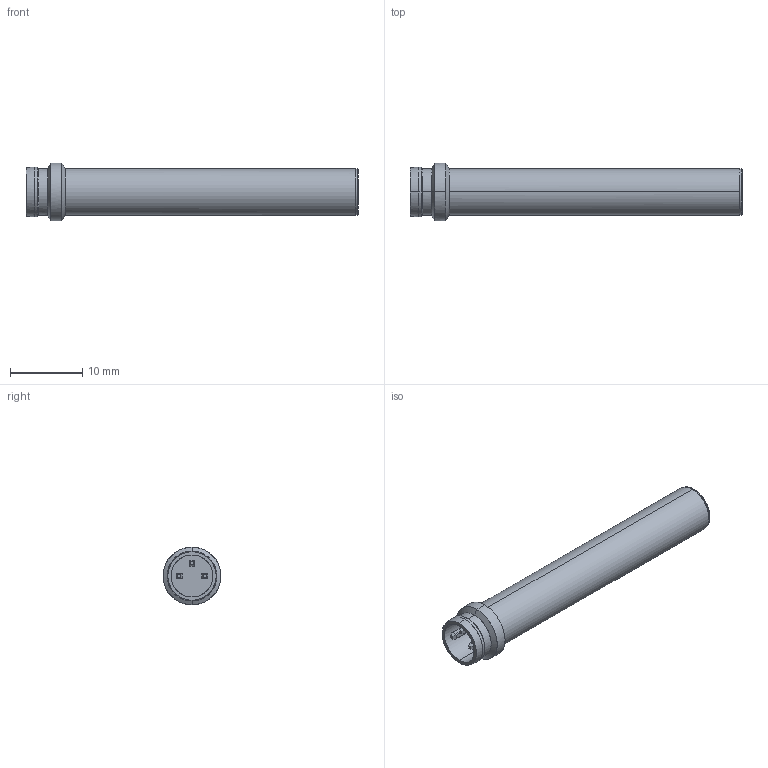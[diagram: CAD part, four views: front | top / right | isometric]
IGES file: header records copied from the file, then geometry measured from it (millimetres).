
Start section: Comment
Global section: file name: IWRM 06x9501_S35.igs; native system:  By Spatial Corp.; preprocessor: XPlus GENERIC/IGES 3.0; author: Author; organization: Title; date: 20060328.124354; units: inch
Bounding box: 45.95 x 8 x 8 mm (x, y, z)
Surface area: 1169.1 mm2 (no closed solid volume)
Topology: 0 solids, 0 shells, 65 faces, 316 edges, 316 vertices
Faces by surface type: bspline 65
